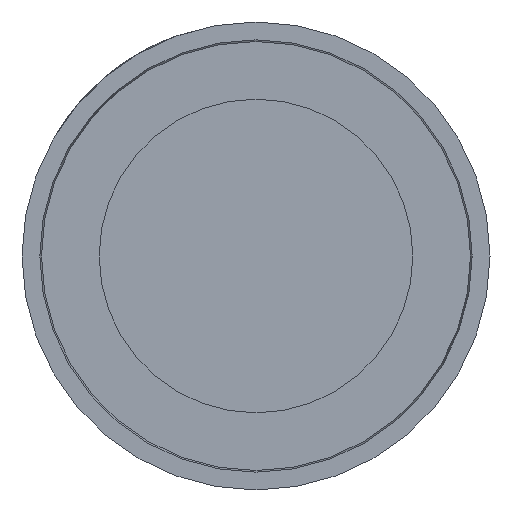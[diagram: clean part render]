
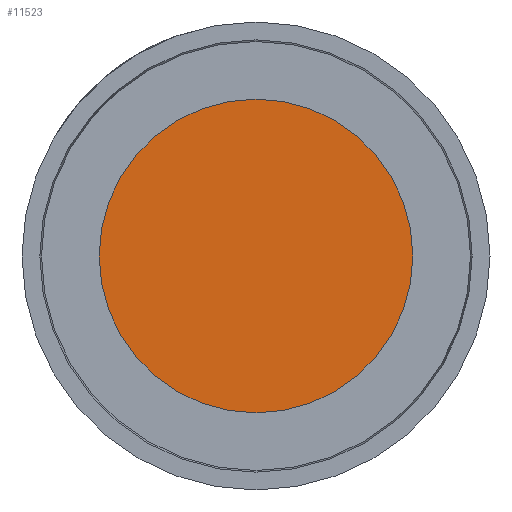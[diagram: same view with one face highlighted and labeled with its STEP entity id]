
A CAD part, left-side view. The second image highlights one B-rep face of the part: STEP entity #11523.
In plain terms, the highlighted planar face has unit normal (-1, 0, 0).
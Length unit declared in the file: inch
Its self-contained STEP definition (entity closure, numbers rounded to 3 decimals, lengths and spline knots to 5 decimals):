
#43 = AXIS2_PLACEMENT_3D ( 'NONE', #8412, #14832, #19373 ) ;
#388 = CIRCLE ( 'NONE', #43, 0.1675 ) ;
#541 = PLANE ( 'NONE',  #6234 ) ;
#976 = EDGE_LOOP ( 'NONE', ( #18038, #19297 ) ) ;
#1790 = VERTEX_POINT ( 'NONE', #9119 ) ;
#1995 = CARTESIAN_POINT ( 'NONE',  ( 0.31, 0.1675, 0. ) ) ;
#2239 = CARTESIAN_POINT ( 'NONE',  ( 0.31, 0., 0. ) ) ;
#3756 = DIRECTION ( 'NONE',  ( 0., 1., 0. ) ) ;
#4730 = EDGE_CURVE ( 'NONE', #5102, #1790, #5753, .T. ) ;
#5102 = VERTEX_POINT ( 'NONE', #10124 ) ;
#5322 = DIRECTION ( 'NONE',  ( 1., 0., 0. ) ) ;
#5753 = CIRCLE ( 'NONE', #15722, 0.1675 ) ;
#6234 = AXIS2_PLACEMENT_3D ( 'NONE', #1995, #5322, #3756 ) ;
#7290 = DIRECTION ( 'NONE',  ( -1., 0., 0. ) ) ;
#8412 = CARTESIAN_POINT ( 'NONE',  ( 0.31, 0., 0. ) ) ;
#8525 = FACE_OUTER_BOUND ( 'NONE', #976, .T. ) ;
#8571 = DIRECTION ( 'NONE',  ( 0., -1., 0. ) ) ;
#9119 = CARTESIAN_POINT ( 'NONE',  ( 0.31, -0.1675, 0. ) ) ;
#10124 = CARTESIAN_POINT ( 'NONE',  ( 0.31, 0.1675, 0. ) ) ;
#11523 = ADVANCED_FACE ( 'NONE', ( #8525 ), #541, .F. ) ;
#14832 = DIRECTION ( 'NONE',  ( -1., 0., 0. ) ) ;
#15348 = EDGE_CURVE ( 'NONE', #1790, #5102, #388, .T. ) ;
#15722 = AXIS2_PLACEMENT_3D ( 'NONE', #2239, #7290, #8571 ) ;
#18038 = ORIENTED_EDGE ( 'NONE', *, *, #15348, .T. ) ;
#19297 = ORIENTED_EDGE ( 'NONE', *, *, #4730, .T. ) ;
#19373 = DIRECTION ( 'NONE',  ( 0., -1., 0. ) ) ;
